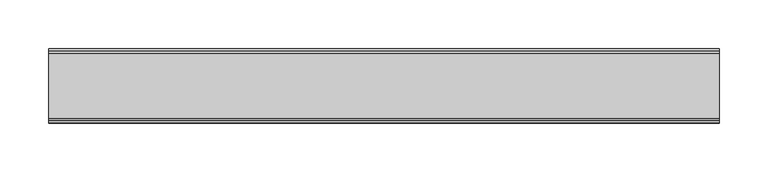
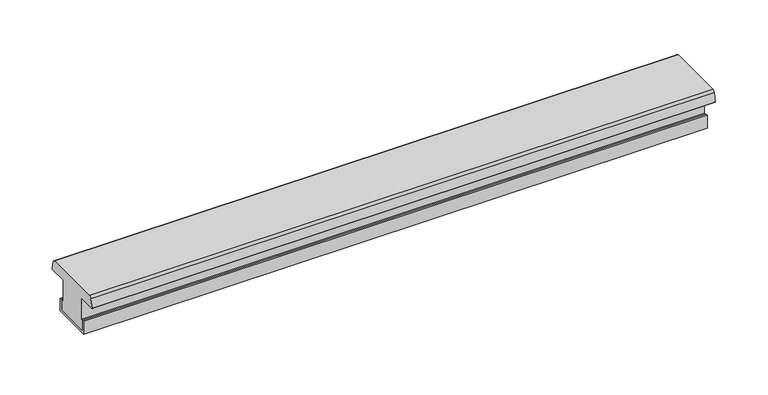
"""IFC4 building model written with IfcOpenShell, lengths in millimetres: proxy geometry, Weiku - Montante - Divisor 02.2.01.040 : Weiku - Montante - Divisor 02.2.01.040."""

from ifc_helpers import new_model, si_unit, point, frame, frame_2d, origin, place, context, project, spatial, polyline, circle_curve, trimmed, segment, composite_curve, outline, extrude, source, transform, mapped, element, save


def generic_models_18a7b4f6(model_context):
    return source(origin(), model_context, "Body", "SweptSolid", [
        extrude(outline(polyline([(20.5, 0.0), (20.5, 12.972419), (22.5, 12.972419), (22.5, -2.0), (-22.5, -2.0), (-22.5, 12.972419), (-20.5, 12.972419), (-20.5, 0.0), (20.5, 0.0)])), frame((-345.25, 0.0, 0.0), z_axis=(1.0, 0.0, 0.0), x_axis=(0.0, 1.0, 0.0)), (0.0, 0.0, 1.0), 690.5),
        extrude(outline(composite_curve([segment(polyline([(-33.0007245, 50.0), (33.0007245, 50.0)]), True, "CONTINUOUS"), segment(trimmed(circle_curve(frame_2d((33.0007245, 47.0)), 3.0), [point((33.0007245, 50.0))], [point((35.898502, 47.7764571))], False, "CARTESIAN"), True, "CONTINUOUS"), segment(polyline([(35.898502, 47.7764571), (38.4496907, 38.2552914)]), True, "CONTINUOUS"), segment(trimmed(circle_curve(frame_2d((37.8701352, 38.1)), 0.6), [point((38.4496907, 38.2552914))], [point((37.8701352, 37.5))], False, "CARTESIAN"), True, "CONTINUOUS"), segment(polyline([(37.8701352, 37.5), (17.5004577, 37.5), (17.5004577, 12.168694), (20.5, 12.972419), (20.5, 0.0), (-20.5, 0.0), (-20.5, 12.972419), (-17.5004577, 12.168694), (-17.5004577, 37.5), (-37.8701352, 37.5)]), True, "CONTINUOUS"), segment(trimmed(circle_curve(frame_2d((-37.8701352, 38.1)), 0.6), [point((-37.8701352, 37.5))], [point((-38.4496907, 38.2552914))], False, "CARTESIAN"), True, "CONTINUOUS"), segment(polyline([(-38.4496907, 38.2552914), (-35.898502, 47.7764571)]), True, "CONTINUOUS"), segment(trimmed(circle_curve(frame_2d((-33.0007245, 47.0)), 3.0), [point((-35.898502, 47.7764571))], [point((-33.0007245, 50.0))], False, "CARTESIAN"), True, "CONTINUOUS")], self_intersect=False)), frame((-345.25, 0.0, 0.0), z_axis=(1.0, 0.0, 0.0), x_axis=(0.0, 1.0, 0.0)), (0.0, 0.0, 1.0), 690.5),
    ])


if __name__ == "__main__":
    model = new_model("IFC4")
    model_context = context("Model", 3, world=origin())
    ifc_project = project(units=[si_unit("LENGTHUNIT", "METRE", prefix="MILLI")], contexts=[model_context])
    site = spatial("IfcSite", under=ifc_project)
    building = spatial("IfcBuilding", under=site)
    placement = place(None, origin())
    generic_models_shape = generic_models_18a7b4f6(model_context)
    element("IfcBuildingElementProxy", 1, Name="Weiku - Montante - Divisor 02.2.01.040 : Weiku - Montante - Divisor 02.2.01.040", ObjectType="Weiku - Montante - Divisor 02.2.01.040 : Weiku - Montante - Divisor 02.2.01.040", at=placement, inside=building, context=model_context, shape_type="MappedRepresentation", body=[
        mapped(generic_models_shape, transform((0.0, 0.0, 0.0), x_axis=(1.0, 0.0, 0.0), y_axis=(0.0, 1.0, 0.0), z_axis=(0.0, 0.0, 1.0))),
    ])
    save(model, "model.ifc")
